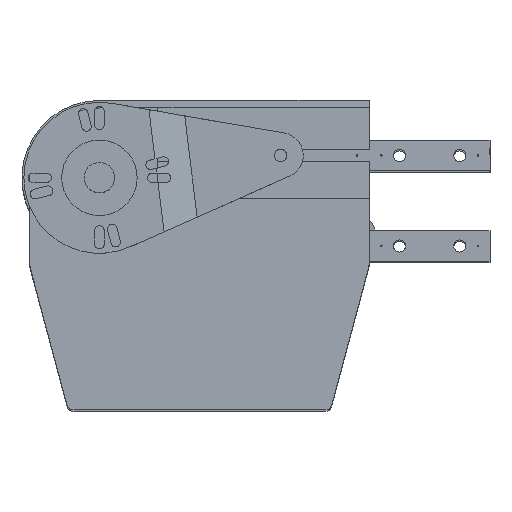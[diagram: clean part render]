
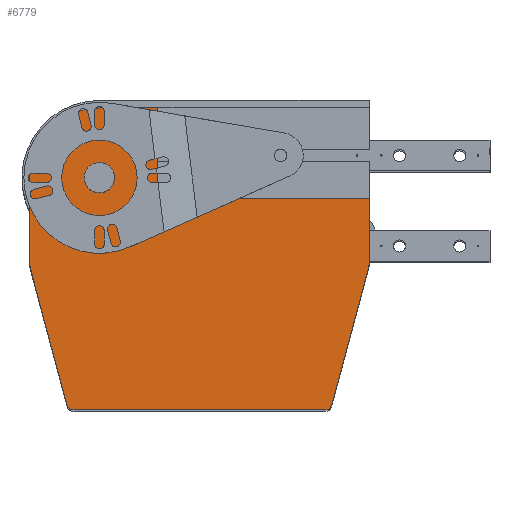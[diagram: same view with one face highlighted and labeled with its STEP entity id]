
A CAD part, top view. The second image highlights one B-rep face of the part: STEP entity #6779.
In plain terms, the highlighted planar face has unit normal (0, 0, 1).
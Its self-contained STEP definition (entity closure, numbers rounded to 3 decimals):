
#66 = CARTESIAN_POINT ( 'NONE',  ( 5., -51.3, 310.5 ) ) ;
#69 = CARTESIAN_POINT ( 'NONE',  ( 41.3, -51.3, 310.5 ) ) ;
#104 = LINE ( 'NONE', #6067, #2761 ) ;
#235 = CARTESIAN_POINT ( 'NONE',  ( 230., -109., 310.5 ) ) ;
#260 = VERTEX_POINT ( 'NONE', #1103 ) ;
#270 = DIRECTION ( 'NONE',  ( 0., 0., 1. ) ) ;
#282 = AXIS2_PLACEMENT_3D ( 'NONE', #7909, #4811, #1750 ) ;
#707 = AXIS2_PLACEMENT_3D ( 'NONE', #3223, #5665, #3285 ) ;
#747 = CARTESIAN_POINT ( 'NONE',  ( 205.27, -201.294, 310.5 ) ) ;
#978 = VERTEX_POINT ( 'NONE', #747 ) ;
#982 = AXIS2_PLACEMENT_3D ( 'NONE', #5625, #6260, #2499 ) ;
#1012 = ORIENTED_EDGE ( 'NONE', *, *, #7592, .T. ) ;
#1018 = DIRECTION ( 'NONE',  ( -1., 0., 0. ) ) ;
#1025 = LINE ( 'NONE', #4224, #7422 ) ;
#1030 = VERTEX_POINT ( 'NONE', #3402 ) ;
#1103 = CARTESIAN_POINT ( 'NONE',  ( 5.17, -109.636, 310.5 ) ) ;
#1154 = DIRECTION ( 'NONE',  ( 1., 0., 0. ) ) ;
#1174 = DIRECTION ( 'NONE',  ( 0.259, -0.966, 0. ) ) ;
#1239 = ORIENTED_EDGE ( 'NONE', *, *, #4721, .T. ) ;
#1254 = VERTEX_POINT ( 'NONE', #4931 ) ;
#1272 = EDGE_CURVE ( 'NONE', #1987, #4258, #6350, .T. ) ;
#1293 = VERTEX_POINT ( 'NONE', #4957 ) ;
#1679 = AXIS2_PLACEMENT_3D ( 'NONE', #6786, #7387, #4956 ) ;
#1750 = DIRECTION ( 'NONE',  ( -1., 0., 0. ) ) ;
#1839 = CIRCLE ( 'NONE', #4643, 5. ) ;
#1861 = DIRECTION ( 'NONE',  ( 0., 0., 1. ) ) ;
#1864 = LINE ( 'NONE', #66, #2147 ) ;
#1987 = VERTEX_POINT ( 'NONE', #6380 ) ;
#1993 = LINE ( 'NONE', #6764, #7804 ) ;
#2005 = ORIENTED_EDGE ( 'NONE', *, *, #5580, .T. ) ;
#2133 = LINE ( 'NONE', #6517, #7938 ) ;
#2147 = VECTOR ( 'NONE', #4325, 1000. ) ;
#2211 = EDGE_CURVE ( 'NONE', #1254, #260, #2804, .T. ) ;
#2232 = EDGE_CURVE ( 'NONE', #3389, #1030, #7053, .T. ) ;
#2245 = CARTESIAN_POINT ( 'NONE',  ( 230., -109., 310.5 ) ) ;
#2361 = EDGE_CURVE ( 'NONE', #4258, #1293, #6668, .T. ) ;
#2447 = CARTESIAN_POINT ( 'NONE',  ( 51.3, -5., 310.5 ) ) ;
#2499 = DIRECTION ( 'NONE',  ( -1., 0., 0. ) ) ;
#2581 = CIRCLE ( 'NONE', #5273, 10. ) ;
#2761 = VECTOR ( 'NONE', #1174, 1000. ) ;
#2804 = CIRCLE ( 'NONE', #7801, 5. ) ;
#3064 = VECTOR ( 'NONE', #7575, 1000. ) ;
#3077 = EDGE_CURVE ( 'NONE', #1293, #1254, #1864, .T. ) ;
#3093 = EDGE_LOOP ( 'NONE', ( #2005, #5460 ) ) ;
#3110 = DIRECTION ( 'NONE',  ( -1., 0., 0. ) ) ;
#3223 = CARTESIAN_POINT ( 'NONE',  ( 51.3, -51.3, 310.5 ) ) ;
#3285 = DIRECTION ( 'NONE',  ( -1., 0., 0. ) ) ;
#3389 = VERTEX_POINT ( 'NONE', #69 ) ;
#3402 = CARTESIAN_POINT ( 'NONE',  ( 61.3, -51.3, 310.5 ) ) ;
#3449 = ORIENTED_EDGE ( 'NONE', *, *, #5386, .T. ) ;
#3590 = CARTESIAN_POINT ( 'NONE',  ( 200.44, -205., 310.5 ) ) ;
#3591 = ORIENTED_EDGE ( 'NONE', *, *, #2211, .T. ) ;
#3972 = ORIENTED_EDGE ( 'NONE', *, *, #2361, .T. ) ;
#4224 = CARTESIAN_POINT ( 'NONE',  ( 90., -46.4, 310.5 ) ) ;
#4258 = VERTEX_POINT ( 'NONE', #7134 ) ;
#4325 = DIRECTION ( 'NONE',  ( 0., -1., 0. ) ) ;
#4425 = CARTESIAN_POINT ( 'NONE',  ( 90., -65., 310.5 ) ) ;
#4500 = EDGE_CURVE ( 'NONE', #5566, #978, #4740, .T. ) ;
#4508 = ORIENTED_EDGE ( 'NONE', *, *, #4500, .T. ) ;
#4582 = CARTESIAN_POINT ( 'NONE',  ( 51.3, -51.3, 310.5 ) ) ;
#4643 = AXIS2_PLACEMENT_3D ( 'NONE', #5896, #270, #1018 ) ;
#4721 = EDGE_CURVE ( 'NONE', #5543, #6149, #7136, .T. ) ;
#4735 = VERTEX_POINT ( 'NONE', #6254 ) ;
#4740 = CIRCLE ( 'NONE', #1679, 5. ) ;
#4811 = DIRECTION ( 'NONE',  ( 0., 0., -1. ) ) ;
#4817 = VERTEX_POINT ( 'NONE', #235 ) ;
#4919 = VECTOR ( 'NONE', #6772, 1000. ) ;
#4931 = CARTESIAN_POINT ( 'NONE',  ( 5., -108.342, 310.5 ) ) ;
#4956 = DIRECTION ( 'NONE',  ( -1., 0., 0. ) ) ;
#4957 = CARTESIAN_POINT ( 'NONE',  ( 5., -51.3, 310.5 ) ) ;
#5204 = ORIENTED_EDGE ( 'NONE', *, *, #6410, .T. ) ;
#5273 = AXIS2_PLACEMENT_3D ( 'NONE', #4582, #5878, #6513 ) ;
#5370 = ORIENTED_EDGE ( 'NONE', *, *, #3077, .T. ) ;
#5386 = EDGE_CURVE ( 'NONE', #978, #4817, #5967, .T. ) ;
#5460 = ORIENTED_EDGE ( 'NONE', *, *, #2232, .T. ) ;
#5495 = DIRECTION ( 'NONE',  ( 0., 1., 0. ) ) ;
#5519 = FACE_BOUND ( 'NONE', #3093, .T. ) ;
#5543 = VERTEX_POINT ( 'NONE', #7230 ) ;
#5566 = VERTEX_POINT ( 'NONE', #3590 ) ;
#5580 = EDGE_CURVE ( 'NONE', #1030, #3389, #2581, .T. ) ;
#5625 = CARTESIAN_POINT ( 'NONE',  ( 51.3, -51.3, 310.5 ) ) ;
#5665 = DIRECTION ( 'NONE',  ( 0., 0., 1. ) ) ;
#5878 = DIRECTION ( 'NONE',  ( 0., 0., -1. ) ) ;
#5896 = CARTESIAN_POINT ( 'NONE',  ( 34.56, -200., 310.5 ) ) ;
#5967 = LINE ( 'NONE', #2245, #7989 ) ;
#6025 = PLANE ( 'NONE',  #282 ) ;
#6029 = EDGE_LOOP ( 'NONE', ( #7558, #6085, #3972, #5370, #3591, #1012, #7285, #6880, #4508, #3449, #5204, #1239 ) ) ;
#6036 = CARTESIAN_POINT ( 'NONE',  ( 29.73, -201.294, 310.5 ) ) ;
#6067 = CARTESIAN_POINT ( 'NONE',  ( 5.17, -109.636, 310.5 ) ) ;
#6085 = ORIENTED_EDGE ( 'NONE', *, *, #1272, .T. ) ;
#6149 = VERTEX_POINT ( 'NONE', #4425 ) ;
#6226 = CARTESIAN_POINT ( 'NONE',  ( 230., -65., 310.5 ) ) ;
#6230 = CARTESIAN_POINT ( 'NONE',  ( 10., -108.342, 310.5 ) ) ;
#6254 = CARTESIAN_POINT ( 'NONE',  ( 34.56, -205., 310.5 ) ) ;
#6260 = DIRECTION ( 'NONE',  ( 0., 0., -1. ) ) ;
#6350 = LINE ( 'NONE', #2447, #4919 ) ;
#6380 = CARTESIAN_POINT ( 'NONE',  ( 90., -5., 310.5 ) ) ;
#6410 = EDGE_CURVE ( 'NONE', #4817, #5543, #2133, .T. ) ;
#6513 = DIRECTION ( 'NONE',  ( -1., 0., 0. ) ) ;
#6517 = CARTESIAN_POINT ( 'NONE',  ( 230., -106.4, 310.5 ) ) ;
#6606 = EDGE_CURVE ( 'NONE', #7131, #4735, #1839, .T. ) ;
#6668 = CIRCLE ( 'NONE', #707, 46.3 ) ;
#6764 = CARTESIAN_POINT ( 'NONE',  ( 34.56, -205., 310.5 ) ) ;
#6772 = DIRECTION ( 'NONE',  ( -1., 0., 0. ) ) ;
#6779 = ADVANCED_FACE ( 'NONE', ( #5519, #7430 ), #6025, .F. ) ;
#6786 = CARTESIAN_POINT ( 'NONE',  ( 200.44, -200., 310.5 ) ) ;
#6880 = ORIENTED_EDGE ( 'NONE', *, *, #7473, .T. ) ;
#7053 = CIRCLE ( 'NONE', #982, 10. ) ;
#7131 = VERTEX_POINT ( 'NONE', #6036 ) ;
#7134 = CARTESIAN_POINT ( 'NONE',  ( 51.3, -5., 310.5 ) ) ;
#7136 = LINE ( 'NONE', #6226, #3064 ) ;
#7139 = EDGE_CURVE ( 'NONE', #6149, #1987, #1025, .T. ) ;
#7212 = DIRECTION ( 'NONE',  ( 0.259, 0.966, 0. ) ) ;
#7230 = CARTESIAN_POINT ( 'NONE',  ( 230., -65., 310.5 ) ) ;
#7285 = ORIENTED_EDGE ( 'NONE', *, *, #6606, .T. ) ;
#7328 = DIRECTION ( 'NONE',  ( 0., 1., 0. ) ) ;
#7387 = DIRECTION ( 'NONE',  ( 0., 0., 1. ) ) ;
#7422 = VECTOR ( 'NONE', #5495, 1000. ) ;
#7430 = FACE_OUTER_BOUND ( 'NONE', #6029, .T. ) ;
#7473 = EDGE_CURVE ( 'NONE', #4735, #5566, #1993, .T. ) ;
#7558 = ORIENTED_EDGE ( 'NONE', *, *, #7139, .T. ) ;
#7575 = DIRECTION ( 'NONE',  ( -1., 0., 0. ) ) ;
#7592 = EDGE_CURVE ( 'NONE', #260, #7131, #104, .T. ) ;
#7801 = AXIS2_PLACEMENT_3D ( 'NONE', #6230, #1861, #3110 ) ;
#7804 = VECTOR ( 'NONE', #1154, 1000. ) ;
#7909 = CARTESIAN_POINT ( 'NONE',  ( 200.44, -200., 310.5 ) ) ;
#7938 = VECTOR ( 'NONE', #7328, 1000. ) ;
#7989 = VECTOR ( 'NONE', #7212, 1000. ) ;
